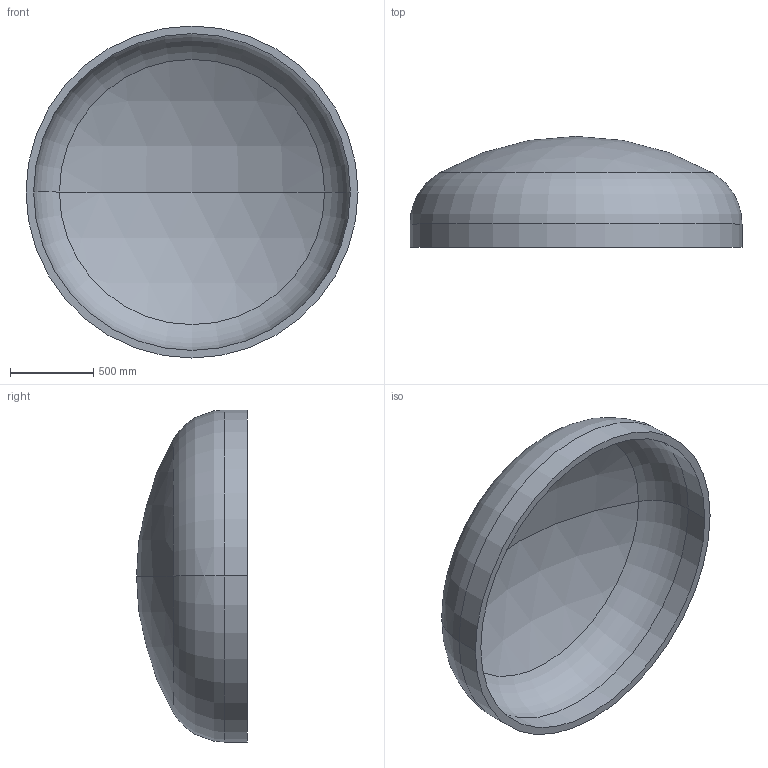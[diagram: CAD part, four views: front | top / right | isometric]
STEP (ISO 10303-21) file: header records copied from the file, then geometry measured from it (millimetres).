
FILE_DESCRIPTION (( 'STEP AP203' ), '1' );
FILE_NAME ('DIN 28013 Korbbogenform_-_Boden DIN 28013 - 2000 x 140 - I - s=46.step', '2016-07-01T13:54:28', ( '' ), ( '' ), 'SwSTEP 2.0', 'SolidWorks 2013', '' );
FILE_SCHEMA (( 'CONFIG_CONTROL_DESIGN' ));
Length unit declared in the file: millimetre
Products named in the file (1): DIN 28013 Korbbogenform_-_Boden DIN 28013 - 2000 x 140 - I - s=46
Bounding box: 2000 x 668.25 x 2000 mm (x, y, z)
Volume: 233976354.4 mm3; surface area: 10459692.5 mm2
Topology: 1 solids, 1 shells, 13 faces, 24 edges, 14 vertices
Faces by surface type: torus 4, cylinder 4, sphere 4, plane 1
Entity records: 407 total; most frequent: DIRECTION 72, CARTESIAN_POINT 52, ORIENTED_EDGE 48, AXIS2_PLACEMENT_3D 34, EDGE_CURVE 24, CIRCLE 20, EDGE_LOOP 14, VERTEX_POINT 14
